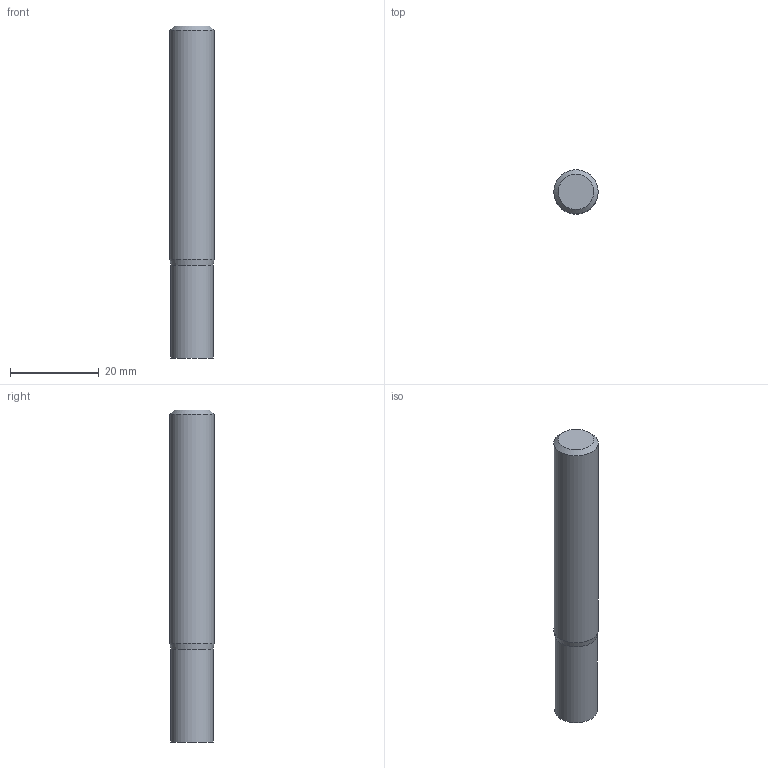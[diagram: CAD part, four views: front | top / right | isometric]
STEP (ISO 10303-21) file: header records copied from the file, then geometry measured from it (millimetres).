
FILE_DESCRIPTION((''),'2;1');
FILE_NAME('C:\Users\nsx150\AppData\Local\Temp\Mastercam 2021\98T1Q6BTT1\TEMP.step','2021-10-21T14:49:58',(''),(''),'STEP Write','Mastercam 2021 ... CNC Software, Inc.','');
FILE_SCHEMA(('AUTOMOTIVE_DESIGN'));
Length unit declared in the file: millimetre
Products named in the file (1): None
Bounding box: 10 x 10 x 75 mm (x, y, z)
Volume: 5742.6 mm3; surface area: 2605.5 mm2
Topology: 2 solids, 2 shells, 8 faces, 10 edges, 6 vertices
Faces by surface type: plane 4, cylinder 2, cone 2
Full cylindrical faces by diameter (mm): 9.6 x1, 10 x1
Entity records: 190 total; most frequent: DIRECTION 32, CARTESIAN_POINT 22, AXIS2_PLACEMENT_3D 16, ORIENTED_EDGE 12, EDGE_LOOP 12, STYLED_ITEM 11, ADVANCED_FACE 8, VERTEX_POINT 6
